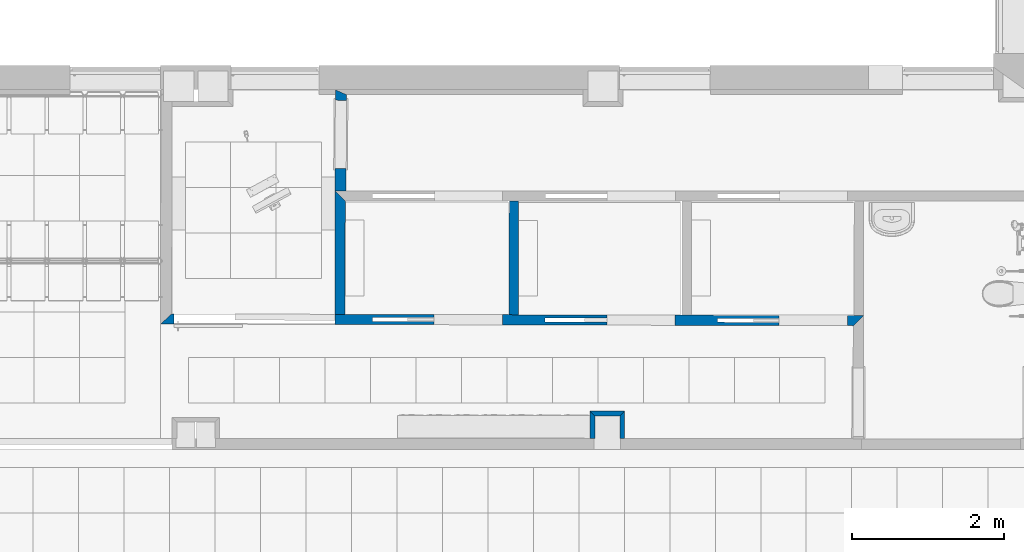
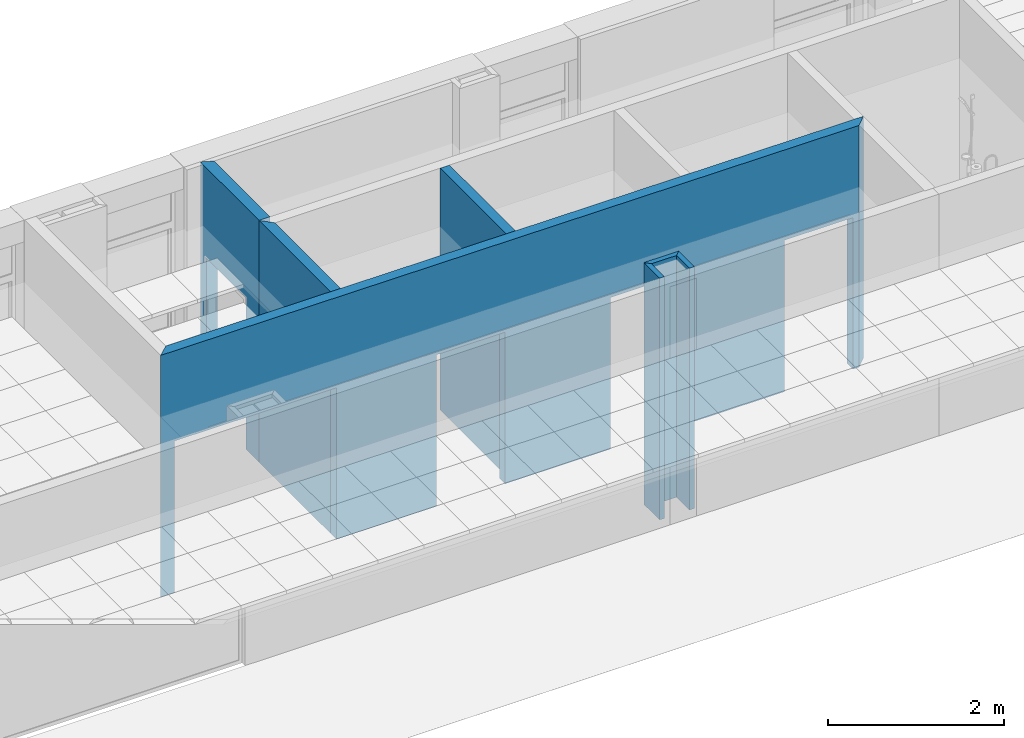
# One storey, part 28 of 68: 7 walls, 6 openings.
"""IFC2X3 building model written with IfcOpenShell, lengths in millimetres."""

from ifc_helpers import new_model, entity, si_unit, converted_unit, derived_unit, money_unit, direction, frame, origin_with_axes, origin_2d_with_axis, place, context, subcontext, project, spatial, polyline, rectangle, outline, extrude, material, layer, layer_set, layer_usage, type_object, element, save


model = new_model("IFC2X3")

# Units and contexts
model_context = context("Model", 3, precision=0.01, world=origin_with_axes(), true_north=direction((0.0, 1.0)))
body_context = subcontext(model_context, "Body", "Model", "MODEL_VIEW")
ifc_project = project(units=[si_unit("LENGTHUNIT", "METRE", prefix="MILLI"), si_unit("AREAUNIT", "SQUARE_METRE"), si_unit("VOLUMEUNIT", "CUBIC_METRE"), converted_unit("PLANEANGLEUNIT", "DEGREE", entity("IfcPlaneAngleMeasure", 0.0174532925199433), si_unit("PLANEANGLEUNIT", "RADIAN"), dimensions=[0, 0, 0, 0, 0, 0, 0]), money_unit("USD"), converted_unit("TIMEUNIT", "Year", entity("IfcTimeMeasure", 31557600.0), si_unit("TIMEUNIT", "SECOND"), dimensions=[0, 0, 1, 0, 0, 0, 0]), si_unit("MASSUNIT", "GRAM", prefix="KILO"), si_unit("THERMODYNAMICTEMPERATUREUNIT", "DEGREE_CELSIUS"), si_unit("LUMINOUSINTENSITYUNIT", "LUMEN"), si_unit("ENERGYUNIT", "JOULE", prefix="MEGA"), derived_unit("THERMALCONDUCTANCEUNIT", [(si_unit("POWERUNIT", "WATT"), 1), (si_unit("LENGTHUNIT", "METRE"), -1), (si_unit("THERMODYNAMICTEMPERATUREUNIT", "KELVIN"), -1)]), derived_unit("SPECIFICHEATCAPACITYUNIT", [(si_unit("ENERGYUNIT", "JOULE"), 1), (si_unit("MASSUNIT", "GRAM", prefix="KILO"), -1), (si_unit("THERMODYNAMICTEMPERATUREUNIT", "KELVIN"), -1)]), derived_unit("MASSDENSITYUNIT", [(si_unit("MASSUNIT", "GRAM", prefix="KILO"), 1), (si_unit("VOLUMEUNIT", "CUBIC_METRE"), -1)])], contexts=[model_context])

# Site, building, storey
site_placement = place(None, origin_with_axes())
site = spatial("IfcSite", under=ifc_project, at=site_placement, Name="Sitio", CompositionType="ELEMENT")
building_placement = place(site_placement, origin_with_axes())
building = spatial("IfcBuilding", under=site, at=building_placement, Name="Construcción", CompositionType="ELEMENT")
storey_placement = place(building_placement, origin_with_axes())
storey = spatial("IfcBuildingStorey", under=building, at=storey_placement, Name="PLANTA 1ª", CompositionType="ELEMENT", Elevation=0.0)

# Walls
ifc_material_1 = material(Name="ARQ_FU093_Panellat_HPL")
ifc_layer_1 = layer(ifc_material_1, 6.0, ventilated="UNKNOWN")
ifc_material_2 = material(Name="ARQ_EN271_Camara_Aire")
ifc_layer_2 = layer(ifc_material_2, 6.0, ventilated="UNKNOWN")
ifc_material_3 = material(Name="Panel de Yeso Laminado")
ifc_layer_3 = layer(ifc_material_3, 13.0, ventilated="UNKNOWN")
ifc_material_4 = material(Name="ARQ_AI033_Aillament_Llana_De_Roca")
ifc_layer_4 = layer(ifc_material_4, 40.0, ventilated="UNKNOWN")
ifc_layer_set_1 = layer_set([ifc_layer_1, ifc_layer_2, ifc_layer_3, ifc_layer_4], Name="Pladur Tras 40 / 1N +HPL")
ifc_layer_usage_1 = layer_usage(ifc_layer_set_1, "AXIS2", "NEGATIVE", 0.0)
wall_type_1 = type_object("IfcWallType", Name="Pladur Tras 40 / 1N +HPL 65", PredefinedType="NOTDEFINED")
wall_1_placement = place(storey_placement, frame((-7420.894198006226, -17083.97582371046, 0.0), z_axis=(0.0, 0.0, 1.0), x_axis=(0.0, 1.0, 0.0)))
element("IfcWallStandardCase", 1, at=wall_1_placement, inside=storey, type_object=wall_type_1, material=ifc_layer_usage_1, Name="MS-218", context=body_context, shape_type="SweptSolid", body=[
    extrude(outline(polyline([(146.0000000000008, -65.0000000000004), (438.0000000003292, -65.0000000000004), (503.0000000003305, 0.0), (146.0000000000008, 0.0), (146.0000000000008, -65.0000000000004)])), origin_with_axes(), (0.0, 0.0, 1.0), 3350.0),
])
ifc_layer_usage_2 = layer_usage(ifc_layer_set_1, "AXIS2", "NEGATIVE", 0.0)
wall_2_placement = place(storey_placement, frame((-7420.894198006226, -16580.97582371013, 0.0), z_axis=(0.0, 0.0, 1.0), x_axis=(1.0, 0.0, 0.0)))
element("IfcWallStandardCase", 2, at=wall_2_placement, inside=storey, type_object=wall_type_1, material=ifc_layer_usage_2, Name="MS-219", context=body_context, shape_type="SweptSolid", body=[
    extrude(outline(polyline([(65.0000000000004, -65.00000000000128), (391.0000034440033, -65.00000000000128), (456.0000034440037, 0.0), (0.0, 0.0), (65.0000000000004, -65.00000000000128)])), origin_with_axes(), (0.0, 0.0, 1.0), 3350.0),
])
ifc_layer_usage_3 = layer_usage(ifc_layer_set_1, "AXIS2", "NEGATIVE", 0.0)
wall_3_placement = place(storey_placement, frame((-6964.894194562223, -16580.97582371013, 0.0), z_axis=(0.0, 0.0, 1.0), x_axis=(0.0, -1.0, 0.0)))
element("IfcWallStandardCase", 3, at=wall_3_placement, inside=storey, type_object=wall_type_1, material=ifc_layer_usage_3, Name="MS-220", context=body_context, shape_type="SweptSolid", body=[
    extrude(outline(polyline([(65.00000000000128, -65.0000000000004), (357.0000000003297, -65.0000000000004), (357.0000000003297, 0.0), (0.0, 0.0), (65.00000000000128, -65.0000000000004)])), origin_with_axes(), (0.0, 0.0, 1.0), 3350.0),
])

# Wall, opening
ifc_layer_5 = layer(ifc_material_1, 6.0, ventilated="UNKNOWN")
ifc_layer_6 = layer(ifc_material_2, 6.0, ventilated="UNKNOWN")
ifc_layer_7 = layer(ifc_material_3, 13.0, ventilated="UNKNOWN")
ifc_layer_8 = layer(ifc_material_3, 13.0, ventilated="UNKNOWN")
ifc_layer_9 = layer(ifc_material_4, 70.0, ventilated="UNKNOWN")
ifc_layer_10 = layer(ifc_material_3, 13.0, ventilated="UNKNOWN")
ifc_layer_11 = layer(ifc_material_3, 13.0, ventilated="UNKNOWN")
ifc_layer_12 = layer(ifc_material_2, 6.0, ventilated="UNKNOWN")
ifc_layer_13 = layer(ifc_material_1, 6.0, ventilated="UNKNOWN")
ifc_layer_set_2 = layer_set([ifc_layer_5, ifc_layer_6, ifc_layer_7, ifc_layer_8, ifc_layer_9, ifc_layer_10, ifc_layer_11, ifc_layer_12, ifc_layer_13], Name="CR Pladur 70 HPL 2 cares")
ifc_layer_usage_4 = layer_usage(ifc_layer_set_2, "AXIS2", "NEGATIVE", 146.0)
wall_type_2 = type_object("IfcWallType", Name="CR Pladur 70 HPL 2 cares 146", PredefinedType="NOTDEFINED")
wall_4_placement = place(storey_placement, frame((-10640.07146744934, -13808.56065481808, 0.0), z_axis=(0.0, 0.0, 1.0), x_axis=(0.001478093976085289, 0.9999989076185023, 0.0)))
wall_4 = element("IfcWallStandardCase", 4, at=wall_4_placement, inside=storey, type_object=wall_type_2, material=ifc_layer_usage_4, Name="MS-205", context=body_context, shape_type="SweptSolid", body=[
    extrude(outline(polyline([(134.0001463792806, 0.0), (1404.586365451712, 0.0), (1469.37063450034, 146.0000000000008), (133.7843444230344, 146.0000000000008), (134.0001463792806, 0.0)])), origin_with_axes(), (0.0, 0.0, 1.0), 3350.0),
])
opening_1_placement = place(wall_4_placement, frame((880.3295445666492, 0.0, 0.0), z_axis=(0.0, 0.0, 1.0), x_axis=(1.0, 0.0, 0.0)))
element("IfcOpeningElement", 5, at=opening_1_placement, cuts=wall_4, Name="P-02", context=body_context, shape_type="SweptSolid", body=[
    extrude(rectangle(XDim=900.0000000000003, YDim=2100.0, at=origin_2d_with_axis()), frame((0.0, 145.999999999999, 1050.0), z_axis=(0.0, 1.0, 0.0), x_axis=(1.0, 0.0, 0.0)), (0.0, 0.0, -1.0), 438.0000000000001),
    extrude(rectangle(XDim=943.9999999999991, YDim=2122.0, at=origin_2d_with_axis()), frame((0.0, 145.999999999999, 1061.0), z_axis=(0.0, 1.0, 0.0), x_axis=(1.0, 0.0, 0.0)), (0.0, 0.0, 1.0), 146.0),
    extrude(rectangle(XDim=944.0000000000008, YDim=2122.0, at=origin_2d_with_axis()), frame((0.0, 0.0, 1061.0), z_axis=(0.0, -1.0, 0.0), x_axis=(1.0, 0.0, 0.0)), (0.0, 0.0, 1.0), 146.0),
])

# Wall, openings
ifc_layer_14 = layer(ifc_material_1, 6.0, ventilated="UNKNOWN")
ifc_layer_15 = layer(ifc_material_2, 6.0, ventilated="UNKNOWN")
ifc_layer_16 = layer(ifc_material_3, 13.0, ventilated="UNKNOWN")
ifc_layer_17 = layer(ifc_material_3, 13.0, ventilated="UNKNOWN")
ifc_layer_18 = layer(ifc_material_4, 70.0, ventilated="UNKNOWN")
ifc_material_5 = material(Name="ARQ_CG063_Guix_Laminat_Hydro")
ifc_layer_19 = layer(ifc_material_5, 13.0, ventilated="UNKNOWN")
ifc_layer_20 = layer(ifc_material_5, 13.0, ventilated="UNKNOWN")
ifc_layer_set_3 = layer_set([ifc_layer_14, ifc_layer_15, ifc_layer_16, ifc_layer_17, ifc_layer_18, ifc_layer_19, ifc_layer_20], Name="CR Pladur 70 mixte HPL 1")
ifc_layer_usage_5 = layer_usage(ifc_layer_set_3, "AXIS2", "NEGATIVE", 134.0)
wall_type_3 = type_object("IfcWallType", Name="CR Pladur 70 mixte HPL 1 134", PredefinedType="NOTDEFINED")
wall_5_placement = place(storey_placement, frame((-3815.203960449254, -15319.85596186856, 0.0), z_axis=(0.0, 0.0, 1.0), x_axis=(-0.9999969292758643, 0.00247819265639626, 0.0)))
wall_5 = element("IfcWallStandardCase", 6, at=wall_5_placement, inside=storey, type_object=wall_type_3, material=ifc_layer_usage_5, Name="MS-205", context=body_context, shape_type="SweptSolid", body=[
    extrude(outline(polyline([(0.0, 0.0), (9127.922565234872, 0.0), (9273.788624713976, 134.0000000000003), (133.7671565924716, 133.9999999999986), (0.0, 0.0)])), origin_with_axes(), (0.0, 0.0, 1.0), 3350.0),
])
opening_2_placement = place(wall_5_placement, frame((7633.47607467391, 0.0, 0.0), z_axis=(0.0, 0.0, 1.0), x_axis=(1.0, 0.0, 0.0)))
element("IfcOpeningElement", 7, at=opening_2_placement, cuts=wall_5, Name="M-02", context=body_context, shape_type="SweptSolid", body=[
    extrude(rectangle(XDim=1320.757398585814, YDim=2100.0, at=origin_2d_with_axis()), frame((0.0, 134.0000000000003, 1050.0), z_axis=(0.0, -1.0, 0.0), x_axis=(1.0, 0.0, 0.0)), (0.0, 0.0, 1.0), 402.0),
])
opening_3_placement = place(wall_5_placement, frame((662.8618169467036, 0.0, 0.0), z_axis=(0.0, 0.0, 1.0), x_axis=(1.0, 0.0, 0.0)))
element("IfcOpeningElement", 8, at=opening_3_placement, cuts=wall_5, Name="P-01", context=body_context, shape_type="SweptSolid", body=[
    extrude(rectangle(XDim=900.0000000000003, YDim=2100.0, at=origin_2d_with_axis()), frame((0.0, -134.0000000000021, 1050.0), z_axis=(0.0, -1.0, 0.0), x_axis=(1.0, 0.0, 0.0)), (0.0, 0.0, -1.0), 402.0),
    extrude(rectangle(XDim=815.0000071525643, YDim=2070.0, at=origin_2d_with_axis()), frame((857.5000035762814, 41.99999999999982, 1035.0), z_axis=(0.0, -1.0, 0.0), x_axis=(1.0, 0.0, 0.0)), (0.0, 0.0, -1.0), 50.0),
])
opening_4_placement = place(wall_5_placement, frame((2935.015215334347, 0.0, 0.0), z_axis=(0.0, 0.0, 1.0), x_axis=(1.0, 0.0, 0.0)))
element("IfcOpeningElement", 9, at=opening_4_placement, cuts=wall_5, Name="P-01", context=body_context, shape_type="SweptSolid", body=[
    extrude(rectangle(XDim=900.0000000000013, YDim=2100.0, at=origin_2d_with_axis()), frame((0.0, -134.0000000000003, 1050.0), z_axis=(0.0, -1.0, 0.0), x_axis=(1.0, 0.0, 0.0)), (0.0, 0.0, -1.0), 402.0),
    extrude(rectangle(XDim=815.0000071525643, YDim=2070.0, at=origin_2d_with_axis()), frame((857.5000035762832, 41.99999999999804, 1035.0), z_axis=(0.0, -1.0, 0.0), x_axis=(1.0, 0.0, 0.0)), (0.0, 0.0, -1.0), 50.0),
])
opening_5_placement = place(wall_5_placement, frame((5215.251814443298, 0.0, 0.0), z_axis=(0.0, 0.0, 1.0), x_axis=(1.0, 0.0, 0.0)))
element("IfcOpeningElement", 10, at=opening_5_placement, cuts=wall_5, Name="P-01", context=body_context, shape_type="SweptSolid", body=[
    extrude(rectangle(XDim=899.9999999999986, YDim=2100.0, at=origin_2d_with_axis()), frame((0.0, -134.0000000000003, 1050.0), z_axis=(0.0, -1.0, 0.0), x_axis=(1.0, 0.0, 0.0)), (0.0, 0.0, -1.0), 402.0),
    extrude(rectangle(XDim=815.0000071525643, YDim=2070.0, at=origin_2d_with_axis()), frame((857.5000035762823, 41.99999999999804, 1035.0), z_axis=(0.0, -1.0, 0.0), x_axis=(1.0, 0.0, 0.0)), (0.0, 0.0, -1.0), 50.0),
])
opening_6_placement = place(wall_5_placement, frame((8643.85477396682, 0.0, 0.0), z_axis=(0.0, 0.0, 1.0), x_axis=(1.0, 0.0, 0.0)))
element("IfcOpeningElement", 11, at=opening_6_placement, cuts=wall_5, Name="PM-2", context=body_context, shape_type="SweptSolid", body=[
    extrude(rectangle(XDim=900.0000000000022, YDim=2100.0, at=origin_2d_with_axis()), frame((0.0, -134.0000000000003, 1050.0), z_axis=(0.0, -1.0, 0.0), x_axis=(-1.0, 0.0, 0.0)), (0.0, 0.0, -1.0), 402.0),
])

# Walls
ifc_layer_usage_6 = layer_usage(ifc_layer_set_3, "AXIS2", "NEGATIVE", 134.0)
wall_6_placement = place(storey_placement, frame((-10654.28026783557, -15302.90736114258, 0.0), z_axis=(0.0, 0.0, 1.0), x_axis=(0.001478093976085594, 0.9999989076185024, 0.0)))
element("IfcWallStandardCase", 12, at=wall_6_placement, inside=storey, type_object=wall_type_3, material=ifc_layer_usage_6, Name="MS-205", context=body_context, shape_type="SweptSolid", body=[
    extrude(outline(polyline([(0.0, 0.0), (1494.348338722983, 0.0), (1628.150420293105, 134.0000000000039), (0.1340135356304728, 134.0000000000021), (0.0, 0.0)])), origin_with_axes(), (0.0, 0.0, 1.0), 3350.0),
])
ifc_layer_21 = layer(ifc_material_5, 13.0, ventilated="UNKNOWN")
ifc_layer_22 = layer(ifc_material_5, 13.0, ventilated="UNKNOWN")
ifc_layer_23 = layer(ifc_material_4, 70.0, ventilated="UNKNOWN")
ifc_layer_24 = layer(ifc_material_5, 13.0, ventilated="UNKNOWN")
ifc_layer_25 = layer(ifc_material_5, 13.0, ventilated="UNKNOWN")
ifc_layer_set_4 = layer_set([ifc_layer_21, ifc_layer_22, ifc_layer_23, ifc_layer_24, ifc_layer_25], Name="CR Pladur 70 / 2H+2H")
ifc_layer_usage_7 = layer_usage(ifc_layer_set_4, "AXIS2", "POSITIVE", -61.0)
wall_type_4 = type_object("IfcWallType", Name="CR Pladur 70 / 2H+2H 122", PredefinedType="NOTDEFINED")
wall_7_placement = place(storey_placement, frame((-8429.517342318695, -15308.42076921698, 0.0), z_axis=(0.0, 0.0, 1.0), x_axis=(0.001478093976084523, 0.9999989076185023, 0.0)))
element("IfcWallStandardCase", 13, at=wall_7_placement, inside=storey, type_object=wall_type_4, material=ifc_layer_usage_7, Name="MS-205", context=body_context, shape_type="SweptSolid", body=[
    extrude(outline(polyline([(-0.06100616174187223, -60.99999999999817), (1499.951916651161, -60.99999999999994), (1499.771588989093, 60.99999999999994), (0.06100616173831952, 61.00000000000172), (-0.06100616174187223, -60.99999999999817)])), origin_with_axes(), (0.0, 0.0, 1.0), 3350.0),
])

save(model, "model.ifc")
